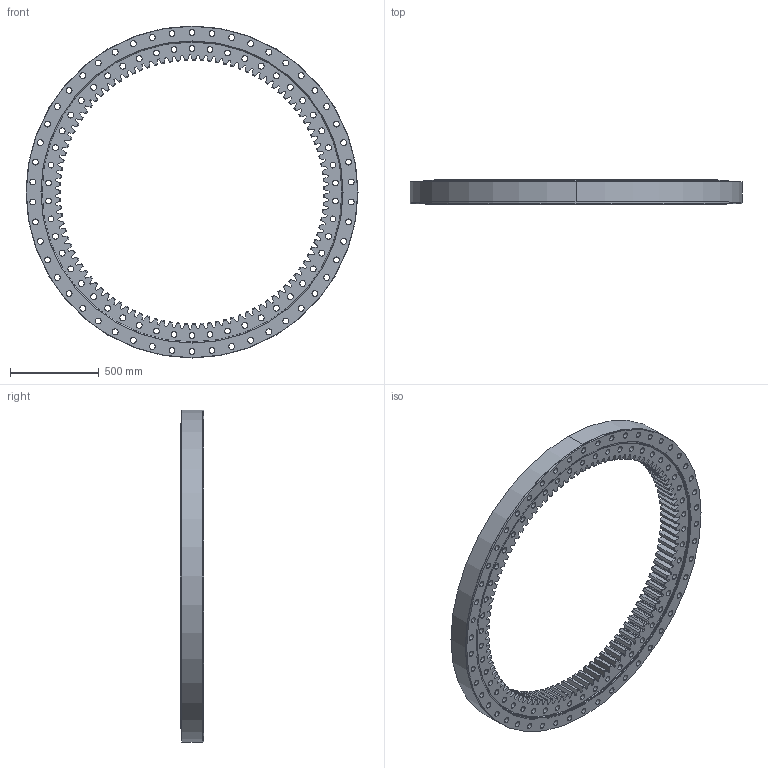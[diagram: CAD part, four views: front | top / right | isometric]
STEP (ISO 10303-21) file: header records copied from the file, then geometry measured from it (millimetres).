
FILE_DESCRIPTION (( 'STEP AP203' ), '1' );
FILE_NAME ('B2235-1-1870AA.STEP', '2022-07-08T08:41:03', ( '' ), ( '' ), 'SwSTEP 2.0', 'SolidWorks 2020', '' );
FILE_SCHEMA (( 'CONFIG_CONTROL_DESIGN' ));
Length unit declared in the file: millimetre
Products named in the file (1): B2235-1-1870AA
Bounding box: 1870 x 134 x 1870 mm (x, y, z)
Volume: 107680241.6 mm3; surface area: 6799843.3 mm2
Topology: 4 solids, 4 shells, 996 faces, 2939 edges, 1958 vertices
Faces by surface type: plane 443, cylinder 331, cone 222
Entity records: 34294 total; most frequent: CARTESIAN_POINT 7606, ORIENTED_EDGE 5878, DIRECTION 5179, EDGE_CURVE 2939, VERTEX_POINT 1958, AXIS2_PLACEMENT_3D 1885, LINE 1409, VECTOR 1409
